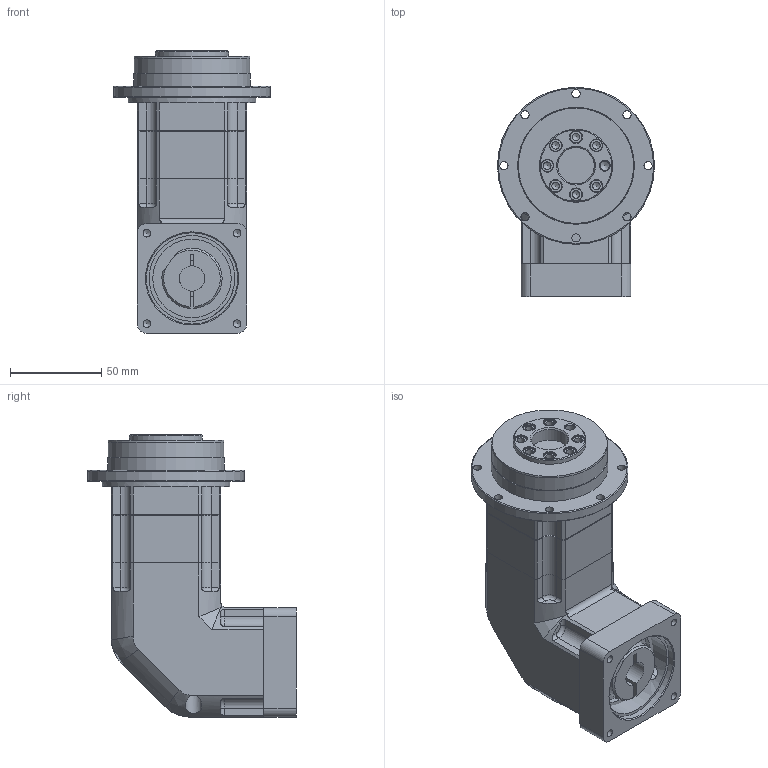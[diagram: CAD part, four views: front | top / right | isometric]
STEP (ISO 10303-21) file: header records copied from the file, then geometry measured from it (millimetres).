
FILE_DESCRIPTION((''),'2;1');
FILE_NAME('C:\Documents and Settings\nagyu\바탕 화면\유성감속기 3D\SPLF060\SPLF060S025~100FA.stp','2009-10-27T09:44:51',('nagyu'),(''),'Autodesk Inventor 2010','Autodesk Inventor 2010','');
FILE_SCHEMA(('AUTOMOTIVE_DESIGN { 1 0 10303 214 1 1 1 1 }'));
Length unit declared in the file: millimetre
Products named in the file (5): SPLF060 2단; SPIF060; 60각 CARRIER CASE; 60각 INPUT ADAPTER FLANGE; SPL060 GEARCASE
Assembly tree (4 placements, depth 2):
  SPLF060 2단
    SPIF060
    60각 CARRIER CASE
    60각 INPUT ADAPTER FLANGE
    SPL060 GEARCASE
Bounding box: 86 x 114.5 x 154.7 mm (x, y, z)
Volume: 534449.3 mm3; surface area: 91183.3 mm2
Topology: 5 solids, 5 shells, 316 faces, 807 edges, 520 vertices
Faces by surface type: plane 121, cylinder 100, bspline 64, cone 29, torus 2
Full cylindrical faces by diameter (mm): 4.3 x4, 4.5 x8, 7.5 x4, 10 x1, 12 x1, 14 x1, 20 x1, 40 x1, 50 x1, 51 x1, 52 x1, 54 x1, 63.5 x1, 64 x1, 70 x1, 86 x1
Entity records: 10513 total; most frequent: CARTESIAN_POINT 3312, DIRECTION 1410, ORIENTED_EDGE 1364, EDGE_CURVE 682, AXIS2_PLACEMENT_3D 555, VERTEX_POINT 481, EDGE_LOOP 453, FACE_OUTER_BOUND 316
